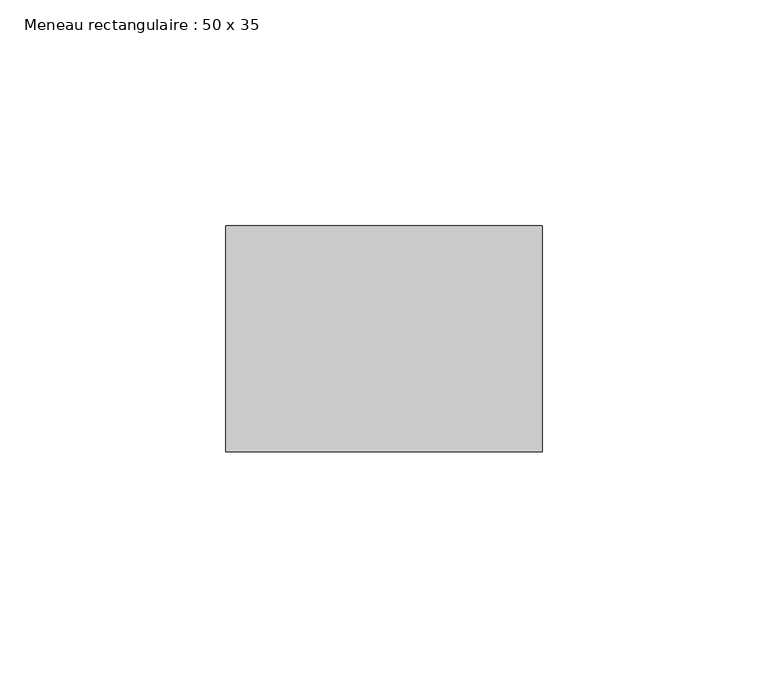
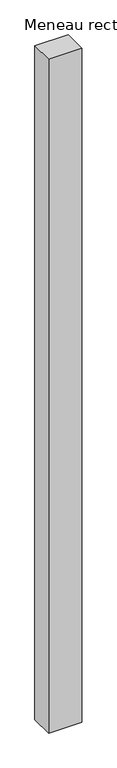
"""IFC4 building model written with IfcOpenShell, lengths in millimetres: member geometry, Meneau rectangulaire : 50 x 35."""

from ifc_helpers import new_model, si_unit, frame, origin, place, context, project, spatial, polyline, outline, extrude, source, transform, mapped, element, save


def meneau_rectangulaire_50_x_35_61ffc69e(model_context):
    return source(origin(), model_context, "Body", "SweptSolid", [
        extrude(outline(polyline([(0.0, 0.0), (0.0, -50.0), (-70.0, -50.0), (-70.0, 0.0), (0.0, 0.0)])), frame((0.0, 0.0, -1504.0), z_axis=(0.0, 0.0, 1.0), x_axis=(1.0, 0.0, 0.0)), (0.0, 0.0, 1.0), 1504.0),
    ])


if __name__ == "__main__":
    model = new_model("IFC4")
    model_context = context("Model", 3, world=origin())
    ifc_project = project(units=[si_unit("LENGTHUNIT", "METRE", prefix="MILLI")], contexts=[model_context])
    site = spatial("IfcSite", under=ifc_project)
    building = spatial("IfcBuilding", under=site)
    placement = place(None, origin())
    meneau_rectangulaire_50_x_35_shape = meneau_rectangulaire_50_x_35_61ffc69e(model_context)
    element("IfcMember", 1, ObjectType="Meneau rectangulaire : 50 x 35", at=placement, inside=building, context=model_context, shape_type="MappedRepresentation", body=[
        mapped(meneau_rectangulaire_50_x_35_shape, transform((0.0, 0.0, 0.0), x_axis=(1.0, 0.0, 0.0), y_axis=(0.0, 1.0, 0.0), z_axis=(0.0, 0.0, 1.0))),
    ])
    save(model, "model.ifc")
